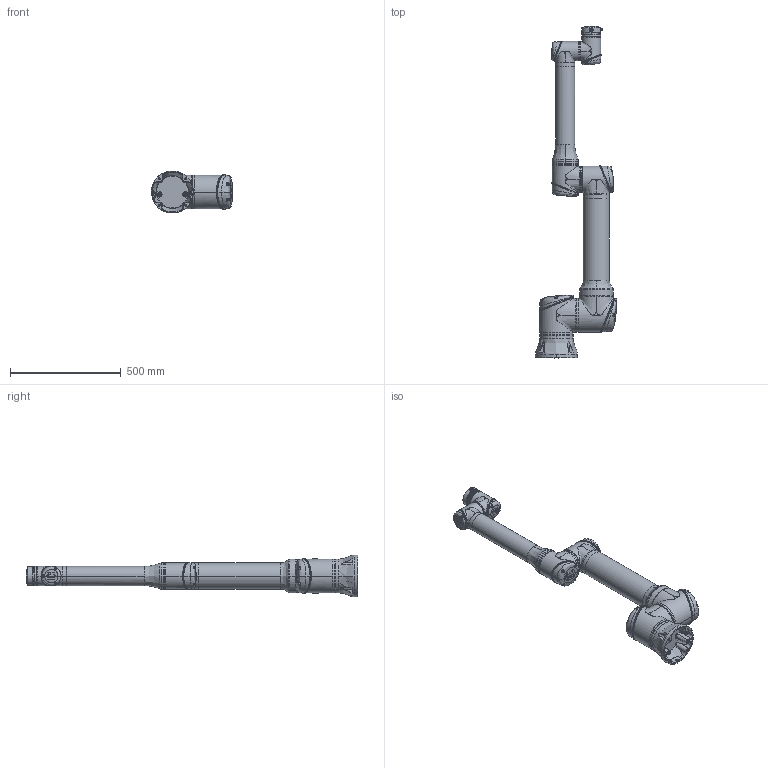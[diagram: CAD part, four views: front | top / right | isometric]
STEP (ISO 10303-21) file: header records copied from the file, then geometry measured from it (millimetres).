
FILE_DESCRIPTION (( 'STEP AP203' ), '1' );
FILE_NAME ('CS_掛极CS612A_V1.2.STEP', '2025-03-31T06:57:07', ( '' ), ( '' ), 'SwSTEP 2.0', 'SolidWorks 2017', '' );
FILE_SCHEMA (( 'CONFIG_CONTROL_DESIGN' ));
Length unit declared in the file: millimetre
Products named in the file (8): CS612A-Flange; CS612A_Link1; CS612A_Link3; CS612A_Link2; CS612A_Base; CS_掛极CS612A_V1.2; CS612A_Link5; CS612A_Link4-2
Assembly tree (7 placements, depth 2):
  CS_掛极CS612A_V1.2
    CS612A_Base
    CS612A_Link1
    CS612A_Link2
    CS612A_Link3
    CS612A_Link4-2
    CS612A_Link5
    CS612A-Flange
Bounding box: 366.83 x 1500 x 189.7 mm (x, y, z)
Volume: 20984866.2 mm3; surface area: 1393465.3 mm2
Topology: 81 solids, 132 shells, 5787 faces, 13889 edges, 8374 vertices
Faces by surface type: bspline 2334, plane 1499, cylinder 1189, cone 436, torus 202, sphere 127
Entity records: 565601 total; most frequent: CARTESIAN_POINT 450887, ORIENTED_EDGE 27210, DIRECTION 18692, EDGE_CURVE 13607, VERTEX_POINT 8351, AXIS2_PLACEMENT_3D 7774, EDGE_LOOP 6169, ADVANCED_FACE 5788
